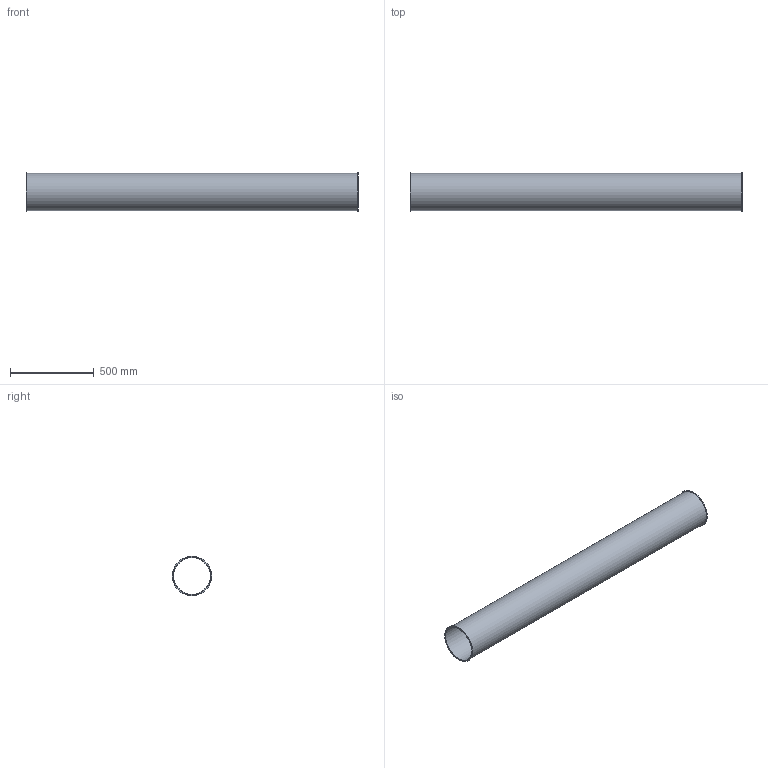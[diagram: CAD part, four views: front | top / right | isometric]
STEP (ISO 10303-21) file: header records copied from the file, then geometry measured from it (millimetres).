
FILE_DESCRIPTION((''),'2;1');
FILE_NAME('U:\Wolfgang\Marcel-3D\fertig\Kapitel 1\2221001.stp','2010-05-31T11:31:46',('TK2'),(''),'Autodesk Inventor 2010','Autodesk Inventor 2010','');
FILE_SCHEMA(('AUTOMOTIVE_DESIGN { 1 0 10303 214 1 1 1 1 }'));
Length unit declared in the file: millimetre
Products named in the file (1): 2221001
Bounding box: 1986 x 235 x 235 mm (x, y, z)
Volume: 2774993.9 mm3; surface area: 2777921.9 mm2
Topology: 1 solids, 1 shells, 8 faces, 12 edges, 8 vertices
Faces by surface type: cylinder 4, plane 4
Full cylindrical faces by diameter (mm): 219 x1, 223 x1, 235 x2
Entity records: 194 total; most frequent: DIRECTION 34, CARTESIAN_POINT 25, AXIS2_PLACEMENT_3D 17, ORIENTED_EDGE 16, EDGE_LOOP 16, VERTEX_POINT 8, CIRCLE 8, EDGE_CURVE 8
